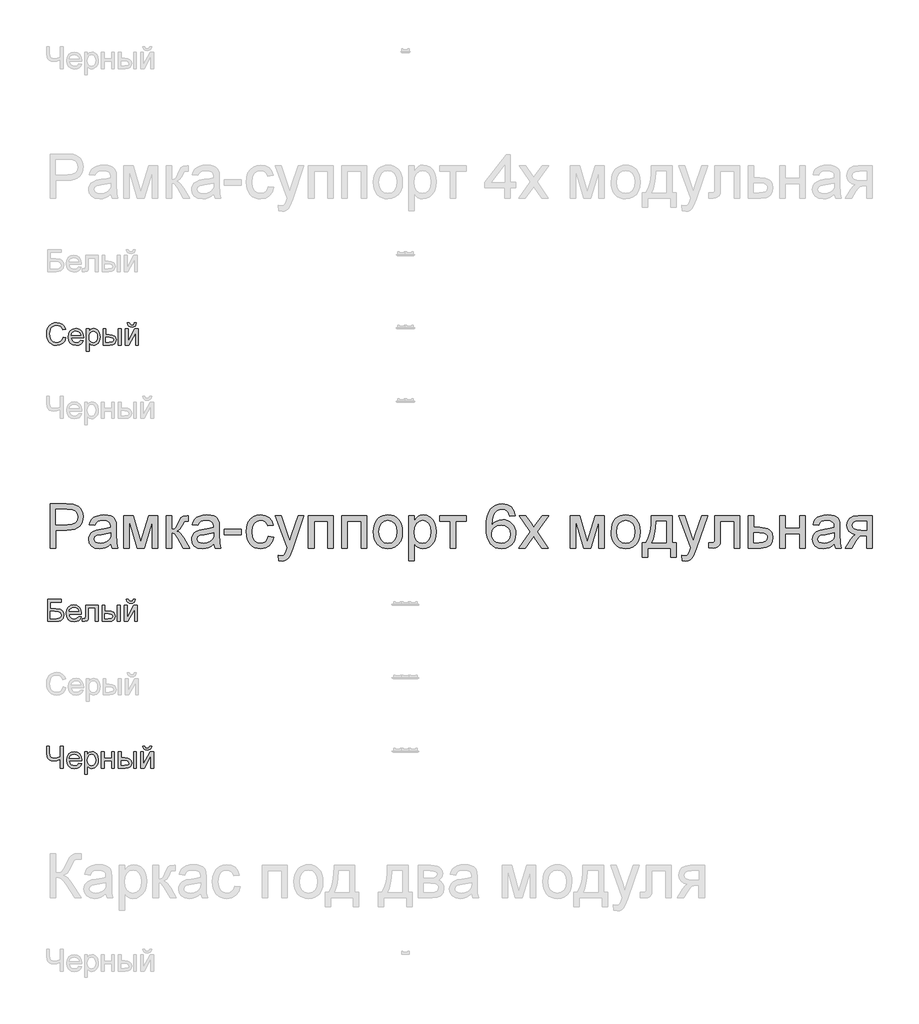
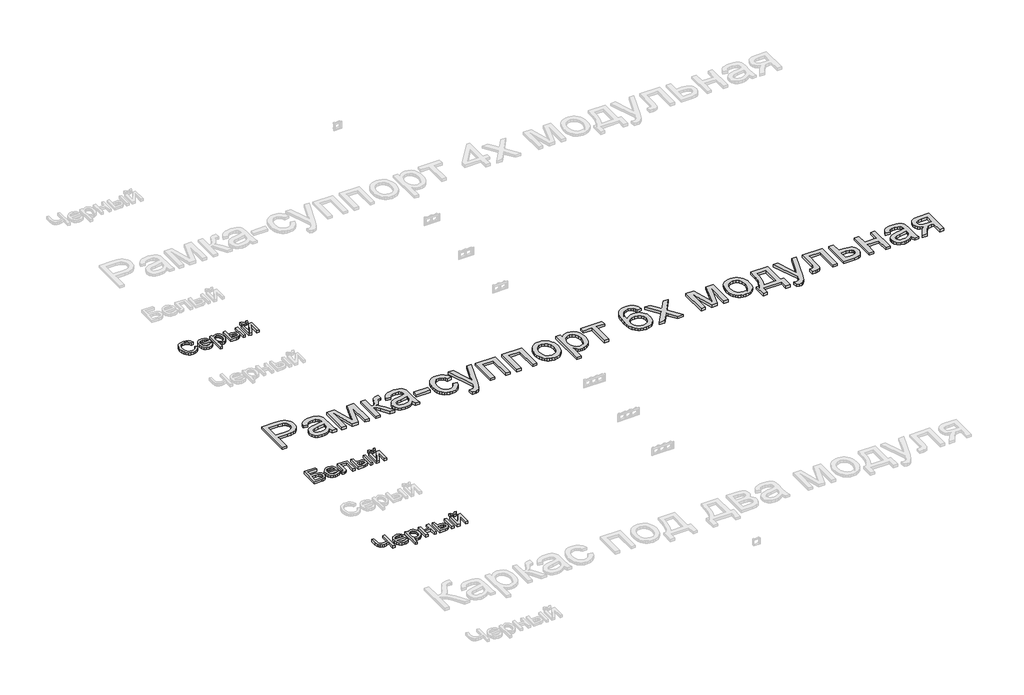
# One storey, part 42 of 168: 4 proxies.
"""IFC4 building model written with IfcOpenShell, lengths in millimetres."""

from ifc_helpers import new_model, si_unit, origin, origin_with_axes, place, context, project, spatial, polyline, outline, extrude, element, save

model = new_model("IFC4")

# Units and contexts
model_context = context("Model", 3, world=origin())
ifc_project = project(units=[si_unit("LENGTHUNIT", "METRE", prefix="MILLI")], contexts=[model_context])

# Site, building, storey
site = spatial("IfcSite", under=ifc_project)
building = spatial("IfcBuilding", under=site)
storey = spatial("IfcBuildingStorey", under=building, Name="Этаж 01", Elevation=0.0)

# Proxies
placement = place(None, origin())
element("IfcBuildingElementProxy", 1, Name="300 мм Arial 2", ObjectType="300 мм Arial 2", at=placement, inside=storey, context=model_context, shape_type="SweptSolid", body=[
    extrude(outline(polyline([(32899.0945017, -38499.4830334), (32899.0945017, -38198.1141029), (33010.7834754, -38198.1141029), (33055.8122316, -38200.9835825), (33075.8893915, -38206.3454626), (33092.4164901, -38215.0734629), (33105.7246213, -38227.5630566), (33116.1448788, -38244.2097169), (33122.8771193, -38263.8454184), (33125.1211995, -38285.3021358), (33123.6059855, -38303.8020016), (33119.0603436, -38320.8211424), (33111.4842738, -38336.3595582), (33100.877776, -38350.4172489), (33086.3165468, -38362.0699111), (33066.8762826, -38370.3932413), (33042.5569835, -38375.3872393), (33013.3586494, -38377.0519054), (32936.765618, -38377.0519054), (32936.765618, -38499.4830334), (32899.0945017, -38499.4830334)]), holes=[polyline([(32936.765618, -38339.3807891), (33015.5659413, -38339.3807891), (33048.9696265, -38335.9226983), (33071.0425462, -38325.5484261), (33083.3481989, -38308.9017658), (33087.4500832, -38286.626511), (33085.0312591, -38269.7039392), (33077.7747867, -38255.4301178), (33066.581977, -38244.6879635), (33052.3541408, -38238.3603932), (33014.6830245, -38235.7852192), (32936.765618, -38235.7852192), (32936.765618, -38339.3807891)])]), origin_with_axes(), (0.0, 0.0, 1.0), 20.0),
    extrude(outline(polyline([(33313.476781, -38471.2296961), (33295.4781544, -38486.6623458), (33276.9460989, -38496.7607066), (33257.4575502, -38502.3341188), (33236.589444, -38504.1919229), (33205.1079423, -38499.7221567), (33181.8853914, -38486.3128579), (33167.5655847, -38465.9505895), (33162.7923158, -38440.6219141), (33164.5949376, -38425.0053234), (33170.0028029, -38410.8234725), (33178.3445271, -38398.6833667), (33188.9487257, -38389.1920112), (33215.3258647, -38376.8311762), (33247.9202095, -38371.1657935), (33286.4374544, -38365.2061051), (33313.2560518, -38358.2163472), (33313.476781, -38349.8286377), (33310.883213, -38333.0164306), (33303.1025088, -38322.0167589), (33285.7016904, -38313.8497786), (33261.4582669, -38311.1274518), (33239.0174652, -38312.9392707), (33223.3456922, -38318.3747271), (33212.6587202, -38328.4271027), (33205.1723216, -38344.0896786), (33167.5012053, -38339.3807891), (33174.0403078, -38318.7793973), (33183.7983777, -38302.5925896), (33197.685923, -38290.2133604), (33216.6134517, -38281.0347046), (33239.7624262, -38275.3509278), (33266.3143092, -38273.4563355), (33291.7809404, -38275.1301986), (33311.9684648, -38280.1517878), (33327.1895824, -38287.7025658), (33337.7569927, -38296.963995), (33344.7651447, -38308.4143221), (33349.3084874, -38322.5317937), (33351.1478973, -38355.4940205), (33351.1478973, -38402.3621866), (33353.0608837, -38467.8083936), (33360.5656764, -38499.4830334), (33322.8945601, -38499.4830334), (33313.476781, -38471.2296961)]), holes=[polyline([(33313.476781, -38395.8874635), (33252.7026754, -38407.4389582), (33220.2922716, -38413.5457993), (33205.61378, -38423.4786132), (33200.4634321, -38437.9731638), (33203.2685323, -38449.1751705), (33211.683833, -38458.3538263), (33225.525393, -38464.4790615), (33244.6092715, -38466.5208066), (33264.8427813, -38464.2675294), (33282.7218462, -38457.5076977), (33297.2163968, -38447.5472927), (33307.2963635, -38435.6922954), (33311.7661297, -38423.4786132), (33313.2560518, -38406.5560414), (33313.476781, -38395.8874635)])]), origin_with_axes(), (0.0, 0.0, 1.0), 20.0),
    extrude(outline(polyline([(33402.9456823, -38278.1652251), (33467.7664898, -38278.1652251), (33517.7248647, -38455.337194), (33571.5827888, -38278.1652251), (33633.6812696, -38278.1652251), (33633.6812696, -38499.4830334), (33596.0101533, -38499.4830334), (33596.0101533, -38321.2809949), (33541.8579236, -38499.4830334), (33492.4145835, -38499.4830334), (33440.6167986, -38312.7461326), (33440.6167986, -38499.4830334), (33402.9456823, -38499.4830334), (33402.9456823, -38278.1652251)])), origin_with_axes(), (0.0, 0.0, 1.0), 20.0),
    extrude(outline(polyline([(33690.1879441, -38278.1652251), (33727.8590604, -38278.1652251), (33727.8590604, -38372.3430158), (33743.1813455, -38370.6507587), (33753.0957653, -38365.5739871), (33761.8697508, -38352.3302353), (33773.7707334, -38326.1370372), (33790.9508226, -38292.1079527), (33806.1075608, -38281.0347046), (33833.6619222, -38278.1652251), (33840.8724093, -38278.1652251), (33840.8724093, -38316.0570706), (33830.7188662, -38315.8363414), (33812.3247665, -38319.8094669), (33799.3753203, -38344.6047134), (33784.1817939, -38371.4233109), (33762.8814263, -38384.5566981), (33774.8191971, -38389.8587973), (33786.6466032, -38399.2167956), (33809.9703217, -38430.1004891), (33850.2901884, -38499.4830334), (33807.4687241, -38499.4830334), (33767.9581979, -38431.5720171), (33748.0925701, -38402.8404332), (33738.8035497, -38397.625706), (33727.8590604, -38395.8874635), (33727.8590604, -38499.4830334), (33690.1879441, -38499.4830334), (33690.1879441, -38278.1652251)])), origin_with_axes(), (0.0, 0.0, 1.0), 20.0),
    extrude(outline(polyline([(34015.1013222, -38471.2296961), (33997.1026956, -38486.6623458), (33978.5706401, -38496.7607066), (33959.0820914, -38502.3341188), (33938.2139852, -38504.1919229), (33906.7324835, -38499.7221567), (33883.5099326, -38486.3128579), (33869.1901259, -38465.9505895), (33864.416857, -38440.6219141), (33866.2194788, -38425.0053234), (33871.6273441, -38410.8234725), (33879.9690683, -38398.6833667), (33890.5732669, -38389.1920112), (33916.9504059, -38376.8311762), (33949.5447507, -38371.1657935), (33988.0619956, -38365.2061051), (34014.880593, -38358.2163472), (34015.1013222, -38349.8286377), (34012.5077542, -38333.0164306), (34004.72705, -38322.0167589), (33987.3262316, -38313.8497786), (33963.0828081, -38311.1274518), (33940.6420064, -38312.9392707), (33924.9702334, -38318.3747271), (33914.2832614, -38328.4271027), (33906.7968628, -38344.0896786), (33869.1257465, -38339.3807891), (33875.664849, -38318.7793973), (33885.4229189, -38302.5925896), (33899.3104642, -38290.2133604), (33918.2379929, -38281.0347046), (33941.3869674, -38275.3509278), (33967.9388504, -38273.4563355), (33993.4054816, -38275.1301986), (34013.593006, -38280.1517878), (34028.8141236, -38287.7025658), (34039.3815339, -38296.963995), (34046.3896859, -38308.4143221), (34050.9330286, -38322.5317937), (34052.7724385, -38355.4940205), (34052.7724385, -38402.3621866), (34054.6854249, -38467.8083936), (34062.1902176, -38499.4830334), (34024.5191013, -38499.4830334), (34015.1013222, -38471.2296961)]), holes=[polyline([(34015.1013222, -38395.8874635), (33954.3272166, -38407.4389582), (33921.9168128, -38413.5457993), (33907.2383212, -38423.4786132), (33902.0879733, -38437.9731638), (33904.8930735, -38449.1751705), (33913.3083742, -38458.3538263), (33927.1499342, -38464.4790615), (33946.2338127, -38466.5208066), (33966.4673225, -38464.2675294), (33984.3463874, -38457.5076977), (33998.840938, -38447.5472927), (34008.9209047, -38435.6922954), (34013.3906709, -38423.4786132), (34014.880593, -38406.5560414), (34015.1013222, -38395.8874635)])]), origin_with_axes(), (0.0, 0.0, 1.0), 20.0),
    extrude(outline(polyline([(34085.7346653, -38410.0141321), (34085.7346653, -38372.3430158), (34203.4569038, -38372.3430158), (34203.4569038, -38410.0141321), (34085.7346653, -38410.0141321)])), origin_with_axes(), (0.0, 0.0, 1.0), 20.0),
    extrude(outline(polyline([(34387.1035957, -38419.4319112), (34424.7747121, -38424.1408008), (34414.2716811, -38457.6456535), (34394.5348121, -38482.9651318), (34367.421909, -38498.8852251), (34334.790776, -38504.1919229), (34313.6628532, -38502.3410166), (34294.7192297, -38496.7882978), (34277.9599056, -38487.5337663), (34263.3848808, -38474.5774223), (34251.587365, -38458.1629875), (34243.1605681, -38438.5341838), (34238.1044899, -38415.6910112), (34236.4191305, -38389.6334696), (34239.2978071, -38356.1102228), (34247.933837, -38327.0567422), (34262.4651758, -38303.595068), (34283.0297793, -38286.8472402), (34307.6318877, -38276.8040617), (34334.2757412, -38273.4563355), (34366.1067309, -38278.0548605), (34391.5549679, -38291.8504353), (34409.8111119, -38314.107296), (34420.0658225, -38344.0896786), (34382.3947062, -38348.7985681), (34375.5612982, -38332.36344), (34364.9203114, -38320.5820191), (34351.0603573, -38313.4910937), (34334.5700468, -38311.1274518), (34310.2254558, -38315.7811591), (34290.902454, -38329.7422808), (34278.2932986, -38353.7649751), (34274.0902468, -38388.6034), (34278.2013281, -38423.9108745), (34290.534572, -38448.0163422), (34309.5080859, -38461.8946905), (34333.5399773, -38466.5208066), (34353.04692, -38463.6329329), (34369.0405898, -38454.969312), (34380.6748579, -38440.3092144), (34387.1035957, -38419.4319112)])), origin_with_axes(), (0.0, 0.0, 1.0), 20.0),
    extrude(outline(polyline([(34457.7369388, -38584.2430451), (34453.0280493, -38547.9698803), (34472.157913, -38551.2808183), (34490.036978, -38547.1237517), (34500.9998615, -38535.5354689), (34511.3005573, -38507.7971665), (34514.2436133, -38498.673693), (34434.1924911, -38278.1652251), (34473.9237466, -38278.1652251), (34516.3773289, -38401.0378115), (34531.1661851, -38450.186846), (34545.9550413, -38406.7767706), (34589.5858459, -38278.1652251), (34629.0227958, -38278.1652251), (34551.988306, -38504.7805341), (34531.9755254, -38553.9295687), (34521.7300119, -38569.6197358), (34510.1233349, -38580.4906487), (34496.6404598, -38586.8366131), (34480.7663517, -38588.9519346), (34457.7369388, -38584.2430451)])), origin_with_axes(), (0.0, 0.0, 1.0), 20.0),
    extrude(outline(polyline([(34660.219189, -38278.1652251), (34829.7392123, -38278.1652251), (34829.7392123, -38499.4830334), (34792.068096, -38499.4830334), (34792.068096, -38315.8363414), (34697.8903053, -38315.8363414), (34697.8903053, -38499.4830334), (34660.219189, -38499.4830334), (34660.219189, -38278.1652251)])), origin_with_axes(), (0.0, 0.0, 1.0), 20.0),
    extrude(outline(polyline([(34886.2458868, -38278.1652251), (35055.7659102, -38278.1652251), (35055.7659102, -38499.4830334), (35018.0947939, -38499.4830334), (35018.0947939, -38315.8363414), (34923.9170031, -38315.8363414), (34923.9170031, -38499.4830334), (34886.2458868, -38499.4830334), (34886.2458868, -38278.1652251)])), origin_with_axes(), (0.0, 0.0, 1.0), 20.0),
    extrude(outline(polyline([(35102.8548056, -38388.8241292), (35104.8919521, -38360.1615233), (35111.0033918, -38335.4628458), (35121.1891245, -38314.7280969), (35135.4491503, -38297.9572764), (35149.8057452, -38287.2381148), (35165.6522621, -38279.5815708), (35182.9887012, -38274.9876443), (35201.8150623, -38273.4563355), (35222.5980957, -38275.3210374), (35241.3899679, -38280.915143), (35258.1906788, -38290.2386523), (35273.0002283, -38303.2915653), (35285.0874511, -38319.6324237), (35293.7211817, -38338.819769), (35298.9014201, -38360.8536013), (35300.6281662, -38385.7339205), (35297.5747456, -38423.7913129), (35288.4144839, -38452.76202), (35273.4140956, -38474.4578606), (35252.840295, -38490.6906537), (35228.4037335, -38500.8166056), (35201.8150623, -38504.1919229), (35180.7285262, -38502.3341188), (35161.76191, -38496.7607066), (35144.9152139, -38487.4716862), (35130.1884378, -38474.4670577), (35118.2299737, -38457.9675502), (35109.6882136, -38438.193893), (35104.5631576, -38415.146086), (35102.8548056, -38388.8241292)]), holes=[polyline([(35140.5259219, -38388.7505528), (35144.8853235, -38422.8440167), (35157.9635284, -38447.1334255), (35177.6452152, -38461.6739613), (35201.8150623, -38466.5208066), (35225.8745448, -38461.6463702), (35245.5194433, -38447.0230609), (35258.5976482, -38422.4117554), (35262.9570499, -38387.5733304), (35258.5700571, -38354.4731479), (35245.4090787, -38330.514833), (35225.736589, -38315.9742971), (35201.8150623, -38311.1274518), (35177.6452152, -38315.955903), (35157.9635284, -38330.4412566), (35144.8853235, -38354.675483), (35140.5259219, -38388.7505528)])]), origin_with_axes(), (0.0, 0.0, 1.0), 20.0),
    extrude(outline(polyline([(35343.008172, -38584.2430451), (35343.008172, -38278.1652251), (35380.6792883, -38278.1652251), (35380.6792883, -38315.1005774), (35392.966547, -38296.8812216), (35406.7253336, -38283.867396), (35422.7649886, -38276.0591007), (35441.8948523, -38273.4563355), (35467.3706805, -38277.0983673), (35489.6459353, -38288.0244625), (35507.7825177, -38305.5724337), (35520.8423285, -38329.0800932), (35528.7333973, -38356.8367897), (35531.3637535, -38387.131872), (35528.3931064, -38419.3491378), (35519.4811651, -38448.163495), (35504.9130381, -38472.1126129), (35484.973834, -38489.7341605), (35461.751283, -38500.5774823), (35437.3331156, -38504.1919229), (35420.0150707, -38501.7730988), (35404.5548298, -38494.5166264), (35391.320275, -38483.56294), (35380.6792883, -38470.0524738), (35380.6792883, -38584.2430451), (35343.008172, -38584.2430451)]), holes=[polyline([(35380.6792883, -38390.5899628), (35384.7535814, -38424.36153), (35396.9764607, -38447.979554), (35415.0118755, -38461.8854935), (35436.5237752, -38466.5208066), (35458.3851628, -38461.7199466), (35476.8804301, -38447.3173665), (35489.4895854, -38422.8348197), (35493.6926372, -38387.7940596), (35489.590753, -38354.2064335), (35477.2851003, -38330.2573156), (35459.2772766, -38315.9099178), (35438.0688796, -38311.1274518), (35416.7777091, -38316.2134204), (35398.0801067, -38331.4713262), (35385.0294929, -38356.4229225), (35380.6792883, -38390.5899628)])]), origin_with_axes(), (0.0, 0.0, 1.0), 20.0),
    extrude(outline(polyline([(35554.9082012, -38278.1652251), (35733.8460037, -38278.1652251), (35733.8460037, -38315.8363414), (35663.2126606, -38315.8363414), (35663.2126606, -38499.4830334), (35625.5415443, -38499.4830334), (35625.5415443, -38315.8363414), (35554.9082012, -38315.8363414), (35554.9082012, -38278.1652251)])), origin_with_axes(), (0.0, 0.0, 1.0), 20.0),
    extrude(outline(polyline([(36068.1771609, -38278.1652251), (36030.5060446, -38282.8741146), (36024.4359917, -38264.2041034), (36016.2322232, -38251.4569922), (35999.1441045, -38239.7031625), (35978.4875305, -38235.7852192), (35960.9763475, -38238.0660876), (35944.4952341, -38244.9086927), (35930.3409744, -38259.3204699), (35918.7802827, -38279.1585065), (35910.9719873, -38307.2187056), (35908.0749166, -38346.2969706), (35923.1856696, -38328.666226), (35941.2946608, -38316.2410116), (35961.3902148, -38308.8741746), (35982.460656, -38306.4185623), (36000.5604502, -38308.0970239), (36017.2622928, -38313.1324087), (36032.5661838, -38321.5247167), (36046.4721232, -38333.273948), (36058.0282164, -38347.6811266), (36066.2825686, -38364.0472768), (36071.23518, -38382.3723987), (36072.8860504, -38402.6564922), (36069.7774476, -38429.6314395), (36060.451639, -38454.6382182), (36045.6811769, -38475.8466152), (36026.2386135, -38491.4264177), (36003.0068655, -38501.0005466), (35976.8688497, -38504.1919229), (35954.4119532, -38502.0766014), (35934.1301589, -38495.730637), (35916.023467, -38485.1540297), (35900.0918773, -38470.3467794), (35887.1033436, -38450.6834867), (35877.8258196, -38425.5387523), (35872.2593051, -38394.9125762), (35870.4038003, -38358.8049584), (35872.4639395, -38318.3241434), (35878.644357, -38283.7754255), (35888.9450529, -38255.1588048), (35903.3660271, -38232.4742813), (35918.9964133, -38217.4417032), (35937.1192001, -38206.7041475), (35957.7343874, -38200.2616141), (35980.8419753, -38198.1141029), (36013.8961725, -38203.4299978), (36040.3652821, -38219.3776822), (36058.9065346, -38244.7063576), (36068.1771609, -38278.1652251)]), holes=[polyline([(35908.0749166, -38402.067881), (35910.2546174, -38418.7605266), (35916.7937199, -38434.699014), (35926.947263, -38448.4026183), (35939.9702856, -38458.3906145), (35955.6880438, -38464.4882586), (35973.9257937, -38466.5208066), (35998.7854196, -38462.3085578), (36018.3291506, -38449.6718112), (36030.9934882, -38429.8061835), (36035.2149341, -38403.907291), (36031.0486705, -38379.0476652), (36018.5498798, -38360.0925454), (35998.675055, -38348.0903953), (35972.3806894, -38344.0896786), (35947.5578517, -38348.0903953), (35926.8001102, -38360.0925454), (35912.756215, -38378.5878127), (35908.0749166, -38402.067881)])]), origin_with_axes(), (0.0, 0.0, 1.0), 20.0),
    extrude(outline(polyline([(36091.7216086, -38499.4830334), (36172.2141891, -38388.235518), (36096.4304981, -38278.1652251), (36141.7535599, -38278.1652251), (36178.3210303, -38331.1402324), (36195.3907548, -38356.1562081), (36210.179611, -38335.7019691), (36251.8238529, -38278.1652251), (36297.1469147, -38278.1652251), (36217.537251, -38388.235518), (36294.2038587, -38499.4830334), (36248.8807969, -38499.4830334), (36202.7483947, -38432.6020866), (36194.2871089, -38420.3884044), (36137.0446704, -38499.4830334), (36091.7216086, -38499.4830334)])), origin_with_axes(), (0.0, 0.0, 1.0), 20.0),
    extrude(outline(polyline([(36444.888324, -38278.1652251), (36509.7091315, -38278.1652251), (36559.6675065, -38455.337194), (36613.5254306, -38278.1652251), (36675.6239113, -38278.1652251), (36675.6239113, -38499.4830334), (36637.952795, -38499.4830334), (36637.952795, -38321.2809949), (36583.8005653, -38499.4830334), (36534.3572252, -38499.4830334), (36482.5594403, -38312.7461326), (36482.5594403, -38499.4830334), (36444.888324, -38499.4830334), (36444.888324, -38278.1652251)])), origin_with_axes(), (0.0, 0.0, 1.0), 20.0),
    extrude(outline(polyline([(36722.7128067, -38388.8241292), (36724.7499533, -38360.1615233), (36730.8613929, -38335.4628458), (36741.0471257, -38314.7280969), (36755.3071515, -38297.9572764), (36769.6637464, -38287.2381148), (36785.5102633, -38279.5815708), (36802.8467023, -38274.9876443), (36821.6730634, -38273.4563355), (36842.4560969, -38275.3210374), (36861.2479691, -38280.915143), (36878.0486799, -38290.2386523), (36892.8582295, -38303.2915653), (36904.9454523, -38319.6324237), (36913.5791829, -38338.819769), (36918.7594212, -38360.8536013), (36920.4861673, -38385.7339205), (36917.4327468, -38423.7913129), (36908.2724851, -38452.76202), (36893.2720967, -38474.4578606), (36872.6982962, -38490.6906537), (36848.2617346, -38500.8166056), (36821.6730634, -38504.1919229), (36800.5865273, -38502.3341188), (36781.6199112, -38496.7607066), (36764.7732151, -38487.4716862), (36750.046439, -38474.4670577), (36738.0879749, -38457.9675502), (36729.5462148, -38438.193893), (36724.4211587, -38415.146086), (36722.7128067, -38388.8241292)]), holes=[polyline([(36760.383923, -38388.7505528), (36764.7433247, -38422.8440167), (36777.8215296, -38447.1334255), (36797.5032163, -38461.6739613), (36821.6730634, -38466.5208066), (36845.7325459, -38461.6463702), (36865.3774445, -38447.0230609), (36878.4556494, -38422.4117554), (36882.815051, -38387.5733304), (36878.4280582, -38354.4731479), (36865.2670799, -38330.514833), (36845.5945902, -38315.9742971), (36821.6730634, -38311.1274518), (36797.5032163, -38315.955903), (36777.8215296, -38330.4412566), (36764.7433247, -38354.675483), (36760.383923, -38388.7505528)])]), origin_with_axes(), (0.0, 0.0, 1.0), 20.0),
    extrude(outline(polyline([(36995.8283999, -38278.1652251), (37137.0950861, -38278.1652251), (37137.0950861, -38461.8119171), (37165.3484233, -38461.8119171), (37165.3484233, -38560.6985974), (37127.677307, -38560.6985974), (37127.677307, -38499.4830334), (36972.2839523, -38499.4830334), (36972.2839523, -38560.6985974), (36934.6128359, -38560.6985974), (36934.6128359, -38461.8119171), (36958.1572836, -38461.8119171), (36975.2729935, -38430.8822383), (36987.2567495, -38389.9645634), (36994.1085516, -38339.0588923), (36995.8283999, -38278.1652251)]), holes=[polyline([(37028.7906267, -38315.8363414), (37025.700418, -38361.9595465), (37019.9614588, -38401.6632109), (37011.5737493, -38434.9473344), (37000.5372895, -38461.8119171), (37099.4239698, -38461.8119171), (37099.4239698, -38315.8363414), (37028.7906267, -38315.8363414)])]), origin_with_axes(), (0.0, 0.0, 1.0), 20.0),
    extrude(outline(polyline([(37207.7284292, -38584.2430451), (37203.0195396, -38547.9698803), (37222.1494034, -38551.2808183), (37240.0284683, -38547.1237517), (37250.9913518, -38535.5354689), (37261.2920477, -38507.7971665), (37264.2351036, -38498.673693), (37184.1839815, -38278.1652251), (37223.915237, -38278.1652251), (37266.3688192, -38401.0378115), (37281.1576754, -38450.186846), (37295.9465316, -38406.7767706), (37339.5773362, -38278.1652251), (37379.0142861, -38278.1652251), (37301.9797963, -38504.7805341), (37281.9670158, -38553.9295687), (37271.7215022, -38569.6197358), (37260.1148253, -38580.4906487), (37246.6319502, -38586.8366131), (37230.7578421, -38588.9519346), (37207.7284292, -38584.2430451)])), origin_with_axes(), (0.0, 0.0, 1.0), 20.0),
    extrude(outline(polyline([(37429.0462375, -38278.1652251), (37598.5662608, -38278.1652251), (37598.5662608, -38499.2623042), (37560.8951445, -38499.2623042), (37560.8951445, -38315.8363414), (37466.7173538, -38315.8363414), (37466.7173538, -38421.418474), (37464.178968, -38470.1260502), (37459.4240932, -38481.153313), (37450.2362404, -38490.6906537), (37436.2935128, -38497.2849385), (37417.2740136, -38499.4830334), (37386.6662316, -38497.570047), (37386.6662316, -38461.8119171), (37403.515227, -38461.8119171), (37420.5481634, -38459.4942605), (37427.3539803, -38452.1366206), (37429.0462375, -38419.2847584), (37429.0462375, -38278.1652251)])), origin_with_axes(), (0.0, 0.0, 1.0), 20.0),
    extrude(outline(polyline([(37655.0729353, -38278.1652251), (37692.7440516, -38278.1652251), (37692.7440516, -38358.2163472), (37736.154127, -38358.2163472), (37773.7884551, -38362.9344338), (37788.9359963, -38368.832042), (37801.6371222, -38377.0886936), (37811.6803007, -38387.4192799), (37818.8539996, -38399.5386923), (37824.5929587, -38429.1439959), (37819.7093252, -38456.1005491), (37805.0584247, -38478.8448534), (37793.8265276, -38487.8740572), (37779.66537, -38494.3234884), (37742.5552738, -38499.4830334), (37655.0729353, -38499.4830334), (37655.0729353, -38278.1652251)]), holes=[polyline([(37692.7440516, -38461.8119171), (37727.9135703, -38461.8119171), (37755.2012173, -38459.8345513), (37773.3469968, -38453.9024542), (37783.528131, -38443.7765023), (37786.9218424, -38429.2175723), (37784.4110478, -38416.9119196), (37776.8786639, -38406.0410066), (37760.7378414, -38398.4258493), (37732.4017307, -38395.8874635), (37692.7440516, -38395.8874635), (37692.7440516, -38461.8119171)])]), origin_with_axes(), (0.0, 0.0, 1.0), 20.0),
    extrude(outline(polyline([(37871.6818541, -38278.1652251), (37909.3529704, -38278.1652251), (37909.3529704, -38362.9252368), (38008.2396507, -38362.9252368), (38008.2396507, -38278.1652251), (38045.910767, -38278.1652251), (38045.910767, -38499.4830334), (38008.2396507, -38499.4830334), (38008.2396507, -38400.5963531), (37909.3529704, -38400.5963531), (37909.3529704, -38499.4830334), (37871.6818541, -38499.4830334), (37871.6818541, -38278.1652251)])), origin_with_axes(), (0.0, 0.0, 1.0), 20.0),
    extrude(outline(polyline([(38243.6841276, -38471.2296961), (38225.685501, -38486.6623458), (38207.1534455, -38496.7607066), (38187.6648968, -38502.3341188), (38166.7967906, -38504.1919229), (38135.3152889, -38499.7221567), (38112.0927379, -38486.3128579), (38097.7729312, -38465.9505895), (38092.9996624, -38440.6219141), (38094.8022841, -38425.0053234), (38100.2101495, -38410.8234725), (38108.5518737, -38398.6833667), (38119.1560722, -38389.1920112), (38145.5332113, -38376.8311762), (38178.127556, -38371.1657935), (38216.6448009, -38365.2061051), (38243.4633984, -38358.2163472), (38243.6841276, -38349.8286377), (38241.0905595, -38333.0164306), (38233.3098553, -38322.0167589), (38215.909037, -38313.8497786), (38191.6656135, -38311.1274518), (38169.2248118, -38312.9392707), (38153.5530388, -38318.3747271), (38142.8660668, -38328.4271027), (38135.3796682, -38344.0896786), (38097.7085519, -38339.3807891), (38104.2476544, -38318.7793973), (38114.0057243, -38302.5925896), (38127.8932696, -38290.2133604), (38146.8207983, -38281.0347046), (38169.9697728, -38275.3509278), (38196.5216558, -38273.4563355), (38221.9882869, -38275.1301986), (38242.1758114, -38280.1517878), (38257.396929, -38287.7025658), (38267.9643393, -38296.963995), (38274.9724913, -38308.4143221), (38279.5158339, -38322.5317937), (38281.3552439, -38355.4940205), (38281.3552439, -38402.3621866), (38283.2682303, -38467.8083936), (38290.773023, -38499.4830334), (38253.1019067, -38499.4830334), (38243.6841276, -38471.2296961)]), holes=[polyline([(38243.6841276, -38395.8874635), (38182.910022, -38407.4389582), (38150.4996182, -38413.5457993), (38135.8211266, -38423.4786132), (38130.6707787, -38437.9731638), (38133.4758789, -38449.1751705), (38141.8911795, -38458.3538263), (38155.7327396, -38464.4790615), (38174.8166181, -38466.5208066), (38195.0501278, -38464.2675294), (38212.9291928, -38457.5076977), (38227.4237434, -38447.5472927), (38237.5037101, -38435.6922954), (38241.9734763, -38423.4786132), (38243.4633984, -38406.5560414), (38243.6841276, -38395.8874635)])]), origin_with_axes(), (0.0, 0.0, 1.0), 20.0),
    extrude(outline(polyline([(38502.6730522, -38278.1652251), (38502.6730522, -38499.4830334), (38465.0019359, -38499.4830334), (38465.0019359, -38414.7230217), (38444.4741206, -38414.7230217), (38416.5150889, -38419.5054876), (38405.3498704, -38429.9349422), (38390.2483145, -38451.658374), (38360.2291437, -38499.4830334), (38316.6719154, -38499.4830334), (38354.4901845, -38439.0032334), (38371.1920271, -38417.2981956), (38386.5694945, -38407.6596874), (38360.8177549, -38399.7686186), (38342.7179607, -38384.7774273), (38332.0125946, -38364.8382231), (38328.4441393, -38342.1031158), (38333.3185757, -38316.314588), (38347.941885, -38295.8971372), (38371.7990324, -38282.5982031), (38404.3749831, -38278.1652251), (38502.6730522, -38278.1652251)]), holes=[polyline([(38465.0019359, -38315.8363414), (38415.3378665, -38315.8363414), (38389.6872944, -38318.0160422), (38375.1283645, -38324.5551447), (38368.3685328, -38334.018909), (38366.1152556, -38344.9725954), (38369.4353906, -38359.3291903), (38379.3957956, -38369.2895953), (38397.7990924, -38375.1113279), (38426.4479028, -38377.0519054), (38465.0019359, -38377.0519054), (38465.0019359, -38315.8363414)])]), origin_with_axes(), (0.0, 0.0, 1.0), 20.0),
])
element("IfcBuildingElementProxy", 2, Name="150", ObjectType="150", at=placement, inside=storey, context=model_context, shape_type="SweptSolid", body=[
    extrude(outline(polyline([(32882.6133883, -38848.7985681), (32976.791179, -38848.7985681), (32976.791179, -38867.6341263), (32901.4489464, -38867.6341263), (32901.4489464, -38912.3685769), (32936.7288298, -38912.3685769), (32967.8148584, -38916.1945497), (32978.2167218, -38921.7219766), (32986.3193227, -38930.6523121), (32991.53405, -38942.1486244), (32993.2722924, -38955.3739821), (32988.3242796, -38976.8398966), (32973.5538175, -38993.1554631), (32960.2824745, -38997.9011408), (32940.1133441, -38999.4830334), (32882.6133883, -38999.4830334), (32882.6133883, -38848.7985681)]), holes=[polyline([(32901.4489464, -38980.6474752), (32941.8056013, -38980.6474752), (32956.0702257, -38979.0931738), (32966.269754, -38974.4302695), (32972.3949892, -38966.6587624), (32974.4367343, -38955.7786523), (32969.7646329, -38941.0265843), (32956.7600044, -38933.1539096), (32928.3779085, -38931.2041351), (32901.4489464, -38931.2041351), (32901.4489464, -38980.6474752)])]), origin_with_axes(), (0.0, 0.0, 1.0), 20.0),
    extrude(outline(polyline([(33094.2926883, -38966.5208066), (33112.7603645, -38968.8752514), (33106.1062989, -38982.7903878), (33095.4883048, -38993.1922513), (33081.1455055, -38999.6761714), (33063.3170243, -39001.8374781), (33041.2165134, -38998.1080744), (33024.2111682, -38986.9198632), (33013.3678464, -38968.9994115), (33009.7534058, -38945.0732863), (33013.4046346, -38920.3424192), (33024.358321, -38901.8471519), (33041.13374, -38890.3140513), (33062.2501665, -38886.4696845), (33082.709004, -38890.3048543), (33099.0567601, -38901.8103637), (33109.7759218, -38920.2688428), (33113.3489756, -38944.9629217), (33113.2386111, -38950.0396932), (33028.588964, -38950.0396932), (33031.8493181, -38964.1387707), (33039.4230887, -38974.5038459), (33050.3537825, -38980.8774015), (33063.6849063, -38983.00192), (33082.1525825, -38979.0655826), (33094.2926883, -38966.5208066)]), holes=[polyline([(33028.588964, -38931.2041351), (33094.5134175, -38931.2041351), (33091.9658347, -38921.2529271), (33086.9718366, -38914.1344105), (33075.990559, -38907.5125346), (33062.1765901, -38905.3052426), (33049.4800628, -38907.0664777), (33038.9816303, -38912.3501828), (33031.6837712, -38920.586141), (33028.588964, -38931.2041351)])]), origin_with_axes(), (0.0, 0.0, 1.0), 20.0),
    extrude(outline(polyline([(33141.6023129, -38888.8241292), (33226.3623246, -38888.8241292), (33226.3623246, -38999.3726688), (33207.5267664, -38999.3726688), (33207.5267664, -38907.6596874), (33160.437871, -38907.6596874), (33160.437871, -38960.4507537), (33159.1686781, -38984.8045418), (33152.1973143, -38995.0868435), (33135.716201, -38999.4830334), (33120.41231, -38998.5265402), (33120.41231, -38980.6474752), (33128.8368076, -38980.6474752), (33137.3532758, -38979.4886469), (33140.7561843, -38975.809827), (33141.6023129, -38959.3838959), (33141.6023129, -38888.8241292)])), origin_with_axes(), (0.0, 0.0, 1.0), 20.0),
    extrude(outline(polyline([(33358.2112316, -38888.8241292), (33377.0467898, -38888.8241292), (33377.0467898, -38999.4830334), (33358.2112316, -38999.4830334), (33358.2112316, -38888.8241292)])), origin_with_axes(), (0.0, 0.0, 1.0), 20.0),
    extrude(outline(polyline([(33254.6156618, -38888.8241292), (33273.4512199, -38888.8241292), (33273.4512199, -38928.8496903), (33296.7381502, -38928.8496903), (33316.8658939, -38931.2087336), (33331.7789103, -38938.2858635), (33341.0081498, -38949.5108629), (33344.084563, -38964.3135146), (33341.5047905, -38977.7917912), (33333.7654731, -38989.1639434), (33320.3607729, -38996.9032609), (33300.7848522, -38999.4830334), (33254.6156618, -38999.4830334), (33254.6156618, -38888.8241292)]), holes=[polyline([(33273.4512199, -38980.6474752), (33292.8018129, -38980.6474752), (33317.7810004, -38976.6927438), (33323.3820037, -38971.6297678), (33325.2490049, -38964.3503028), (33319.7123808, -38952.76202), (33310.8326292, -38948.9544413), (33295.2666223, -38947.6852485), (33273.4512199, -38947.6852485), (33273.4512199, -38980.6474752)])]), origin_with_axes(), (0.0, 0.0, 1.0), 20.0),
    extrude(outline(polyline([(33405.300127, -38888.8241292), (33424.1356852, -38888.8241292), (33424.1356852, -38973.2162589), (33470.4152402, -38888.8241292), (33494.7690282, -38888.8241292), (33494.7690282, -38999.4830334), (33475.9334701, -38999.4830334), (33475.9334701, -38915.6059385), (33429.9482207, -38999.4830334), (33405.300127, -38999.4830334), (33405.300127, -38888.8241292)])), origin_with_axes(), (0.0, 0.0, 1.0), 20.0),
    extrude(outline(polyline([(33466.515691, -38848.7985681), (33480.6423596, -38848.7985681), (33477.6027346, -38860.8604991), (33471.5004921, -38869.7494478), (33462.6115433, -38875.226291), (33451.2118, -38877.0519054), (33438.8417679, -38875.2400866), (33429.2492449, -38869.8046301), (33422.6917483, -38860.9294769), (33419.4267956, -38848.7985681), (33433.5534643, -38848.7985681), (33438.850965, -38859.4119637), (33449.5195428, -38862.9252368), (33461.2181903, -38859.5223283), (33466.515691, -38848.7985681)])), origin_with_axes(), (0.0, 0.0, 1.0), 20.0),
])
element("IfcBuildingElementProxy", 3, Name="150", ObjectType="150", at=placement, inside=storey, context=model_context, shape_type="SweptSolid", body=[
    extrude(outline(polyline([(32988.5634029, -39999.4830334), (32969.7278447, -39999.4830334), (32969.7278447, -39939.1503862), (32944.7486573, -39947.3173665), (32923.0804077, -39950.0396932), (32908.3973176, -39948.1772906), (32895.5444404, -39942.5900828), (32885.5840354, -39934.137994), (32879.5783618, -39923.6809483), (32875.550054, -39893.6801716), (32875.550054, -39848.7985681), (32894.3856121, -39848.7985681), (32894.3856121, -39891.1417858), (32896.6480864, -39911.5086527), (32903.4355092, -39923.4602191), (32913.3959142, -39929.2681561), (32925.1773351, -39931.2041351), (32946.909964, -39928.8680844), (32969.7278447, -39921.8599324), (32969.7278447, -39848.7985681), (32988.5634029, -39848.7985681), (32988.5634029, -39999.4830334)])), origin_with_axes(), (0.0, 0.0, 1.0), 20.0),
    extrude(outline(polyline([(33096.6471331, -39966.5208066), (33115.1148092, -39968.8752514), (33108.4607436, -39982.7903878), (33097.8427496, -39993.1922513), (33083.4999503, -39999.6761714), (33065.6714691, -40001.8374781), (33043.5709582, -39998.1080744), (33026.565613, -39986.9198632), (33015.7222912, -39968.9994115), (33012.1078506, -39945.0732863), (33015.7590794, -39920.3424192), (33026.7127658, -39901.8471519), (33043.4881848, -39890.3140513), (33064.6046113, -39886.4696845), (33085.0634487, -39890.3048543), (33101.4112049, -39901.8103637), (33112.1303665, -39920.2688428), (33115.7034204, -39944.9629217), (33115.5930558, -39950.0396932), (33030.9434087, -39950.0396932), (33034.2037629, -39964.1387707), (33041.7775335, -39974.5038459), (33052.7082273, -39980.8774015), (33066.0393511, -39983.00192), (33084.5070272, -39979.0655826), (33096.6471331, -39966.5208066)]), holes=[polyline([(33030.9434087, -39931.2041351), (33096.8678623, -39931.2041351), (33094.3202794, -39921.2529271), (33089.3262814, -39914.1344105), (33078.3450038, -39907.5125346), (33064.5310349, -39905.3052426), (33051.8345075, -39907.0664777), (33041.3360751, -39912.3501828), (33034.038216, -39920.586141), (33030.9434087, -39931.2041351)])]), origin_with_axes(), (0.0, 0.0, 1.0), 20.0),
    extrude(outline(polyline([(33134.5389786, -40041.8630392), (33134.5389786, -39888.8241292), (33153.3745367, -39888.8241292), (33153.3745367, -39907.2918054), (33166.3975594, -39891.6752147), (33183.9823187, -39886.4696845), (33196.7202328, -39888.2907003), (33207.8578602, -39893.753748), (33216.9261514, -39902.5277335), (33223.4560568, -39914.2815633), (33228.7167693, -39943.3074527), (33227.2314458, -39959.4160856), (33222.7754751, -39973.8232642), (33215.4914116, -39985.7978232), (33205.5218095, -39994.6085969), (33193.9105341, -40000.0302578), (33181.7014504, -40001.8374781), (33165.3123075, -39996.9998299), (33153.3745367, -39984.7677536), (33153.3745367, -40041.8630392), (33134.5389786, -40041.8630392)]), holes=[polyline([(33153.3745367, -39945.0364981), (33155.4116833, -39961.9222817), (33161.5231229, -39973.7312937), (33170.5408303, -39980.6842634), (33181.2967802, -39983.00192), (33192.2274739, -39980.60149), (33201.4751076, -39973.4001999), (33207.7796853, -39961.1589265), (33209.8812112, -39943.6385465), (33207.8302691, -39926.8447334), (33201.6774427, -39914.8701745), (33192.6735309, -39907.6964756), (33182.0693323, -39905.3052426), (33171.4237471, -39907.8482269), (33162.0749459, -39915.4771798), (33155.549639, -39927.9529779), (33153.3745367, -39945.0364981)])]), origin_with_axes(), (0.0, 0.0, 1.0), 20.0),
    extrude(outline(polyline([(33249.9067723, -39888.8241292), (33268.7423304, -39888.8241292), (33268.7423304, -39931.2041351), (33318.1856706, -39931.2041351), (33318.1856706, -39888.8241292), (33337.0212287, -39888.8241292), (33337.0212287, -39999.4830334), (33318.1856706, -39999.4830334), (33318.1856706, -39950.0396932), (33268.7423304, -39950.0396932), (33268.7423304, -39999.4830334), (33249.9067723, -39999.4830334), (33249.9067723, -39888.8241292)])), origin_with_axes(), (0.0, 0.0, 1.0), 20.0),
    extrude(outline(polyline([(33468.8701358, -39888.8241292), (33487.7056939, -39888.8241292), (33487.7056939, -39999.4830334), (33468.8701358, -39999.4830334), (33468.8701358, -39888.8241292)])), origin_with_axes(), (0.0, 0.0, 1.0), 20.0),
    extrude(outline(polyline([(33365.2745659, -39888.8241292), (33384.1101241, -39888.8241292), (33384.1101241, -39928.8496903), (33407.3970544, -39928.8496903), (33427.5247981, -39931.2087336), (33442.4378144, -39938.2858635), (33451.667054, -39949.5108629), (33454.7434672, -39964.3135146), (33452.1636947, -39977.7917912), (33444.4243772, -39989.1639434), (33431.019677, -39996.9032609), (33411.4437563, -39999.4830334), (33365.2745659, -39999.4830334), (33365.2745659, -39888.8241292)]), holes=[polyline([(33384.1101241, -39980.6474752), (33403.460717, -39980.6474752), (33428.4399045, -39976.6927438), (33434.0409079, -39971.6297678), (33435.907909, -39964.3503028), (33430.371285, -39952.76202), (33421.4915333, -39948.9544413), (33405.9255264, -39947.6852485), (33384.1101241, -39947.6852485), (33384.1101241, -39980.6474752)])]), origin_with_axes(), (0.0, 0.0, 1.0), 20.0),
    extrude(outline(polyline([(33577.1745952, -39848.7985681), (33591.3012638, -39848.7985681), (33588.2616388, -39860.8604991), (33582.1593962, -39869.7494478), (33573.2704475, -39875.226291), (33561.8707042, -39877.0519054), (33549.5006721, -39875.2400866), (33539.9081491, -39869.8046301), (33533.3506525, -39860.9294769), (33530.0856998, -39848.7985681), (33544.2123684, -39848.7985681), (33549.5098691, -39859.4119637), (33560.178447, -39862.9252368), (33571.8770944, -39859.5223283), (33577.1745952, -39848.7985681)])), origin_with_axes(), (0.0, 0.0, 1.0), 20.0),
    extrude(outline(polyline([(33515.9590312, -39888.8241292), (33534.7945893, -39888.8241292), (33534.7945893, -39973.2162589), (33581.0741443, -39888.8241292), (33605.4279324, -39888.8241292), (33605.4279324, -39999.4830334), (33586.5923742, -39999.4830334), (33586.5923742, -39915.6059385), (33540.6071248, -39999.4830334), (33515.9590312, -39999.4830334), (33515.9590312, -39888.8241292)])), origin_with_axes(), (0.0, 0.0, 1.0), 20.0),
])
element("IfcBuildingElementProxy", 4, Name="150", ObjectType="150", at=placement, inside=storey, context=model_context, shape_type="SweptSolid", body=[
    extrude(outline(polyline([(32988.5634029, -37062.764231), (33007.398961, -37067.6202733), (32998.7077489, -37089.5690328), (32985.0685239, -37105.6040893), (32967.1526708, -37115.412743), (32945.631574, -37118.6822942), (32923.7839821, -37116.2082878), (32906.4337475, -37108.7862686), (32893.1348133, -37096.6737539), (32883.4411228, -37080.1282611), (32877.5228212, -37060.6765006), (32875.550054, -37039.8451827), (32877.7803386, -37017.8734305), (32884.4711923, -36998.8999166), (32895.2731274, -36983.5270477), (32909.8366559, -36972.3572306), (32927.1087156, -36965.5560123), (32946.0362442, -36963.2889395), (32966.6882197, -36966.2227984), (32983.7625428, -36975.0243751), (32996.7257847, -36989.1510437), (33005.0445163, -37008.0601783), (32986.2089581, -37012.5483386), (32979.6790527, -36998.8125446), (32970.7579143, -36989.390167), (32959.3351784, -36983.940915), (32945.3004803, -36982.1244976), (32929.1228695, -36984.1386515), (32915.8331324, -36990.1811133), (32905.7485672, -36999.6172865), (32899.1864722, -37011.8125746), (32894.3856121, -37039.8083945), (32895.8065563, -37057.2092128), (32900.0693889, -37072.2555864), (32907.3350583, -37084.3726997), (32917.7645129, -37092.9857369), (32930.2679022, -37098.1314863), (32943.7553759, -37099.8467361), (32959.4777326, -37097.5106854), (32972.5789302, -37090.5025334), (32982.4703573, -37078.8958565), (32988.5634029, -37062.764231)])), origin_with_axes(), (0.0, 0.0, 1.0), 20.0),
    extrude(outline(polyline([(33108.4193569, -37083.3656227), (33126.8870331, -37085.7200675), (33120.2329675, -37099.6352039), (33109.6149734, -37110.0370673), (33095.2721741, -37116.5209875), (33077.4436929, -37118.6822942), (33055.3431821, -37114.9528905), (33038.3378368, -37103.7646793), (33027.494515, -37085.8442276), (33023.8800744, -37061.9181024), (33027.5313032, -37037.1872352), (33038.4849896, -37018.6919679), (33055.2604086, -37007.1588674), (33076.3768351, -37003.3145005), (33096.8356726, -37007.1496703), (33113.1834288, -37018.6551797), (33123.9025904, -37037.1136589), (33127.4756443, -37061.8077378), (33127.3652797, -37066.8845093), (33042.7156326, -37066.8845093), (33045.9759868, -37080.9835868), (33053.5497573, -37091.348662), (33064.4804511, -37097.7222176), (33077.8115749, -37099.8467361), (33096.2792511, -37095.9103987), (33108.4193569, -37083.3656227)]), holes=[polyline([(33042.7156326, -37048.0489512), (33108.6400861, -37048.0489512), (33106.0925033, -37038.0977432), (33101.0985052, -37030.9792266), (33090.1172277, -37024.3573507), (33076.3032587, -37022.1500587), (33063.6067314, -37023.9112937), (33053.1082989, -37029.1949989), (33045.8104399, -37037.4309571), (33042.7156326, -37048.0489512)])]), origin_with_axes(), (0.0, 0.0, 1.0), 20.0),
    extrude(outline(polyline([(33146.3112024, -37158.7078553), (33146.3112024, -37005.6689453), (33165.1467606, -37005.6689453), (33165.1467606, -37024.1366215), (33178.1697832, -37008.5200308), (33195.7545426, -37003.3145005), (33208.4924567, -37005.1355164), (33219.6300841, -37010.598564), (33228.6983752, -37019.3725496), (33235.2282807, -37031.1263794), (33240.4889932, -37060.1522688), (33239.0036696, -37076.2609017), (33234.547699, -37090.6680803), (33227.2636355, -37102.6426392), (33217.2940334, -37111.453413), (33205.6827579, -37116.8750739), (33193.4736742, -37118.6822942), (33177.0845313, -37113.844646), (33165.1467606, -37101.6125697), (33165.1467606, -37158.7078553), (33146.3112024, -37158.7078553)]), holes=[polyline([(33165.1467606, -37061.8813142), (33167.1839071, -37078.7670978), (33173.2953468, -37090.5761098), (33182.3130542, -37097.5290795), (33193.069004, -37099.8467361), (33203.9996978, -37097.4463061), (33213.2473314, -37090.245016), (33219.5519091, -37078.0037426), (33221.653435, -37060.4833626), (33219.6024929, -37043.6895495), (33213.4496665, -37031.7149906), (33204.4457547, -37024.5412917), (33193.8415562, -37022.1500587), (33183.195971, -37024.693043), (33173.8471698, -37032.3219959), (33167.3218629, -37044.797794), (33165.1467606, -37061.8813142)])]), origin_with_axes(), (0.0, 0.0, 1.0), 20.0),
    extrude(outline(polyline([(33365.2745659, -37005.6689453), (33384.1101241, -37005.6689453), (33384.1101241, -37116.3278495), (33365.2745659, -37116.3278495), (33365.2745659, -37005.6689453)])), origin_with_axes(), (0.0, 0.0, 1.0), 20.0),
    extrude(outline(polyline([(33261.6789961, -37005.6689453), (33280.5145543, -37005.6689453), (33280.5145543, -37045.6945064), (33303.8014846, -37045.6945064), (33323.9292282, -37048.0535497), (33338.8422446, -37055.1306796), (33348.0714841, -37066.3556789), (33351.1478973, -37081.1583307), (33348.5681248, -37094.6366073), (33340.8288074, -37106.0087595), (33327.4241072, -37113.748077), (33307.8481865, -37116.3278495), (33261.6789961, -37116.3278495), (33261.6789961, -37005.6689453)]), holes=[polyline([(33280.5145543, -37097.4922913), (33299.8651472, -37097.4922913), (33324.8443347, -37093.5375599), (33330.4453381, -37088.4745839), (33332.3123392, -37081.1951189), (33326.7757152, -37069.6068361), (33317.8959635, -37065.7992574), (33302.3299566, -37064.5300645), (33280.5145543, -37064.5300645), (33280.5145543, -37097.4922913)])]), origin_with_axes(), (0.0, 0.0, 1.0), 20.0),
    extrude(outline(polyline([(33473.5790253, -36965.6433842), (33487.7056939, -36965.6433842), (33484.666069, -36977.7053152), (33478.5638264, -36986.5942639), (33469.6748777, -36992.0711071), (33458.2751343, -36993.8967215), (33445.9051022, -36992.0849026), (33436.3125792, -36986.6494462), (33429.7550827, -36977.774293), (33426.4901299, -36965.6433842), (33440.6167986, -36965.6433842), (33445.9142993, -36976.2567798), (33456.5828771, -36979.7700529), (33468.2815246, -36976.3671444), (33473.5790253, -36965.6433842)])), origin_with_axes(), (0.0, 0.0, 1.0), 20.0),
    extrude(outline(polyline([(33412.3634613, -37005.6689453), (33431.1990195, -37005.6689453), (33431.1990195, -37090.061075), (33477.4785745, -37005.6689453), (33501.8323626, -37005.6689453), (33501.8323626, -37116.3278495), (33482.9968044, -37116.3278495), (33482.9968044, -37032.4507546), (33437.011555, -37116.3278495), (33412.3634613, -37116.3278495), (33412.3634613, -37005.6689453)])), origin_with_axes(), (0.0, 0.0, 1.0), 20.0),
])

save(model, "model.ifc")
